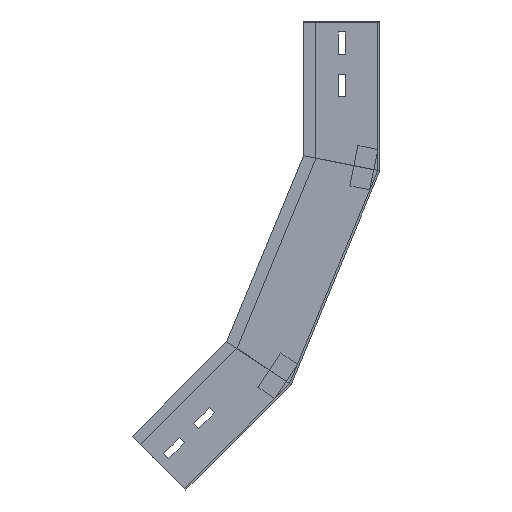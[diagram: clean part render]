
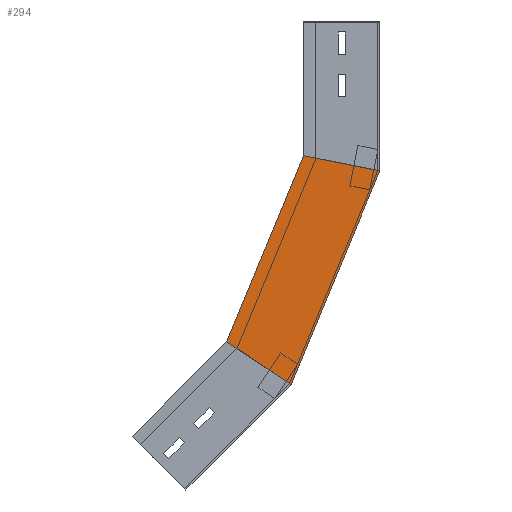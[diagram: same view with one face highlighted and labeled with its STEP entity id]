
A CAD part, left-side view. The second image highlights one B-rep face of the part: STEP entity #294.
In plain terms, the highlighted planar face has unit normal (-1, 0, 0) as drawn and (1, 0, 0) by its records, which use the part's own axes.
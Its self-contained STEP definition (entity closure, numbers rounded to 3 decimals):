
#41 = CARTESIAN_POINT ( 'NONE',  ( 0., 0., -146.6 ) ) ;
#73 = CARTESIAN_POINT ( 'NONE',  ( 0., 0., -146.6 ) ) ;
#76 = VERTEX_POINT ( 'NONE', #773 ) ;
#80 = LINE ( 'NONE', #1440, #1011 ) ;
#239 = DIRECTION ( 'NONE',  ( 0., 0.383, -0.924 ) ) ;
#291 = DIRECTION ( 'NONE',  ( 0., -0.981, -0.195 ) ) ;
#294 = ADVANCED_FACE ( 'NONE', ( #528 ), #507, .F. ) ;
#303 = VECTOR ( 'NONE', #239, 1000. ) ;
#507 = PLANE ( 'NONE',  #884 ) ;
#514 = LINE ( 'NONE', #734, #1148 ) ;
#528 = FACE_OUTER_BOUND ( 'NONE', #1416, .T. ) ;
#530 = VERTEX_POINT ( 'NONE', #1024 ) ;
#631 = DIRECTION ( 'NONE',  ( 0., 0., 1. ) ) ;
#638 = CARTESIAN_POINT ( 'NONE',  ( 0., 0., -146.6 ) ) ;
#650 = CARTESIAN_POINT ( 'NONE',  ( 0., 87.328, -357.429 ) ) ;
#683 = EDGE_CURVE ( 'NONE', #745, #1352, #711, .T. ) ;
#711 = LINE ( 'NONE', #41, #303 ) ;
#722 = ORIENTED_EDGE ( 'NONE', *, *, #875, .F. ) ;
#726 = DIRECTION ( 'NONE',  ( 0., 0.383, -0.924 ) ) ;
#734 = CARTESIAN_POINT ( 'NONE',  ( 0., 28.051, -141.02 ) ) ;
#735 = VECTOR ( 'NONE', #1198, 1000. ) ;
#737 = EDGE_CURVE ( 'NONE', #530, #76, #80, .T. ) ;
#745 = VERTEX_POINT ( 'NONE', #73 ) ;
#773 = CARTESIAN_POINT ( 'NONE',  ( 0., 150.91, -314.945 ) ) ;
#813 = EDGE_CURVE ( 'NONE', #530, #745, #514, .T. ) ;
#846 = LINE ( 'NONE', #853, #735 ) ;
#853 = CARTESIAN_POINT ( 'NONE',  ( 0., 124.345, -332.696 ) ) ;
#854 = DIRECTION ( 'NONE',  ( -1., 0., 0. ) ) ;
#875 = EDGE_CURVE ( 'NONE', #76, #1352, #846, .T. ) ;
#884 = AXIS2_PLACEMENT_3D ( 'NONE', #638, #854, #631 ) ;
#938 = ORIENTED_EDGE ( 'NONE', *, *, #683, .T. ) ;
#1011 = VECTOR ( 'NONE', #726, 1000. ) ;
#1024 = CARTESIAN_POINT ( 'NONE',  ( 0., 75., -131.682 ) ) ;
#1148 = VECTOR ( 'NONE', #291, 1000. ) ;
#1198 = DIRECTION ( 'NONE',  ( 0., -0.831, -0.556 ) ) ;
#1239 = ORIENTED_EDGE ( 'NONE', *, *, #737, .F. ) ;
#1269 = ORIENTED_EDGE ( 'NONE', *, *, #813, .T. ) ;
#1352 = VERTEX_POINT ( 'NONE', #650 ) ;
#1416 = EDGE_LOOP ( 'NONE', ( #1239, #1269, #938, #722 ) ) ;
#1440 = CARTESIAN_POINT ( 'NONE',  ( 0., 69.291, -117.899 ) ) ;
